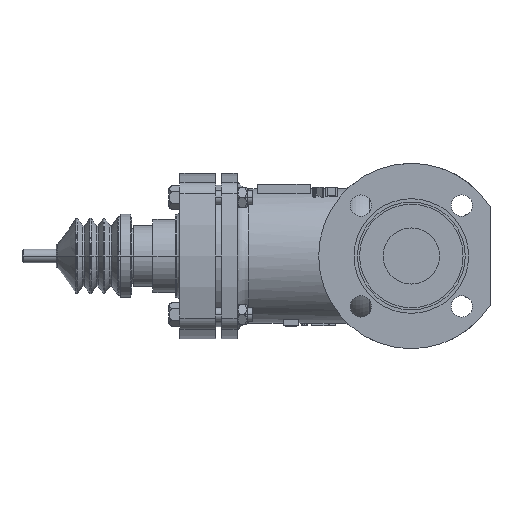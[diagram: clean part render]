
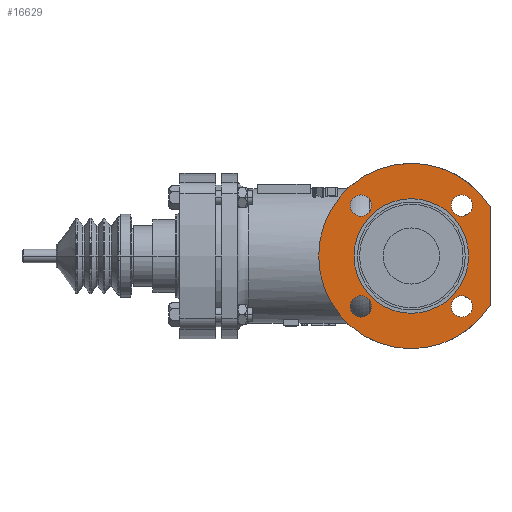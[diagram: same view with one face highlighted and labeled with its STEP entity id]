
A CAD part, left-side view. The second image highlights one B-rep face of the part: STEP entity #16629.
In plain terms, the highlighted planar face has unit normal (-1, 0, 0).
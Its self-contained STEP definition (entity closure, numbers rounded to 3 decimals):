
#4317=CARTESIAN_POINT('',(-109.,0.,0.));
#4318=DIRECTION('',(1.,0.,0.));
#4319=DIRECTION('',(0.,1.,0.));
#4320=AXIS2_PLACEMENT_3D('',#4317,#4318,#4319);
#4322=CARTESIAN_POINT('',(-109.,0.,0.));
#4323=DIRECTION('',(-1.,0.,0.));
#4324=DIRECTION('',(0.,1.,0.));
#4325=AXIS2_PLACEMENT_3D('',#4322,#4323,#4324);
#4327=DIRECTION('',(0.,0.,1.));
#4328=VECTOR('',#4327,87.321);
#4329=CARTESIAN_POINT('',(-109.,-70.,-43.661));
#4330=LINE('',#4329,#4328);
#4331=CARTESIAN_POINT('',(-109.,44.901,44.901));
#4332=DIRECTION('',(1.,0.,0.));
#4333=DIRECTION('',(0.,1.,0.));
#4334=AXIS2_PLACEMENT_3D('',#4331,#4332,#4333);
#4336=CARTESIAN_POINT('',(-109.,44.901,44.901));
#4337=DIRECTION('',(1.,0.,0.));
#4338=DIRECTION('',(0.,-1.,0.));
#4339=AXIS2_PLACEMENT_3D('',#4336,#4337,#4338);
#4341=CARTESIAN_POINT('',(-109.,44.901,-44.901));
#4342=DIRECTION('',(1.,0.,0.));
#4343=DIRECTION('',(0.,0.,-1.));
#4344=AXIS2_PLACEMENT_3D('',#4341,#4342,#4343);
#4346=CARTESIAN_POINT('',(-109.,44.901,-44.901));
#4347=DIRECTION('',(1.,0.,0.));
#4348=DIRECTION('',(0.,0.,1.));
#4349=AXIS2_PLACEMENT_3D('',#4346,#4347,#4348);
#4351=CARTESIAN_POINT('',(-109.,-44.901,-44.901));
#4352=DIRECTION('',(1.,0.,0.));
#4353=DIRECTION('',(0.,-1.,0.));
#4354=AXIS2_PLACEMENT_3D('',#4351,#4352,#4353);
#4356=CARTESIAN_POINT('',(-109.,-44.901,-44.901));
#4357=DIRECTION('',(1.,0.,0.));
#4358=DIRECTION('',(0.,1.,0.));
#4359=AXIS2_PLACEMENT_3D('',#4356,#4357,#4358);
#4361=CARTESIAN_POINT('',(-109.,-44.901,44.901));
#4362=DIRECTION('',(1.,0.,0.));
#4363=DIRECTION('',(0.,0.,1.));
#4364=AXIS2_PLACEMENT_3D('',#4361,#4362,#4363);
#4366=CARTESIAN_POINT('',(-109.,-44.901,44.901));
#4367=DIRECTION('',(1.,0.,0.));
#4368=DIRECTION('',(0.,0.,-1.));
#4369=AXIS2_PLACEMENT_3D('',#4366,#4367,#4368);
#4380=CARTESIAN_POINT('',(-109.,0.,0.));
#4381=DIRECTION('',(-1.,0.,0.));
#4382=DIRECTION('',(0.,-0.848,0.529));
#4383=AXIS2_PLACEMENT_3D('',#4380,#4381,#4382);
#9926=CARTESIAN_POINT('',(-109.,-70.,-43.661));
#9928=VERTEX_POINT('',#9926);
#9937=CARTESIAN_POINT('',(-109.,-70.,43.661));
#9938=VERTEX_POINT('',#9937);
#10007=CARTESIAN_POINT('',(-109.,54.401,44.901));
#10008=VERTEX_POINT('',#10007);
#10009=CARTESIAN_POINT('',(-109.,35.401,44.901));
#10010=VERTEX_POINT('',#10009);
#10015=CARTESIAN_POINT('',(-109.,44.901,-54.401));
#10016=VERTEX_POINT('',#10015);
#10017=CARTESIAN_POINT('',(-109.,44.901,-35.401));
#10018=VERTEX_POINT('',#10017);
#10023=CARTESIAN_POINT('',(-109.,-54.401,-44.901));
#10024=VERTEX_POINT('',#10023);
#10025=CARTESIAN_POINT('',(-109.,-35.401,-44.901));
#10026=VERTEX_POINT('',#10025);
#10031=CARTESIAN_POINT('',(-109.,-44.901,54.401));
#10032=VERTEX_POINT('',#10031);
#10033=CARTESIAN_POINT('',(-109.,-44.901,35.401));
#10034=VERTEX_POINT('',#10033);
#10630=CARTESIAN_POINT('',(-109.,51.,0.));
#10632=VERTEX_POINT('',#10630);
#10646=CARTESIAN_POINT('',(-109.,-51.,0.));
#10648=VERTEX_POINT('',#10646);
#16590=CARTESIAN_POINT('',(-109.,0.,0.));
#16591=DIRECTION('',(-1.,0.,0.));
#16592=DIRECTION('',(0.,-1.,0.));
#16593=AXIS2_PLACEMENT_3D('',#16590,#16591,#16592);
#16594=PLANE('',#16593);
#16596=ORIENTED_EDGE('',*,*,#16595,.F.);
#16598=ORIENTED_EDGE('',*,*,#16597,.F.);
#16599=EDGE_LOOP('',(#16596,#16598));
#16600=FACE_OUTER_BOUND('',#16599,.F.);
#16601=ORIENTED_EDGE('',*,*,#16583,.F.);
#16602=ORIENTED_EDGE('',*,*,#16572,.T.);
#16603=EDGE_LOOP('',(#16601,#16602));
#16604=FACE_BOUND('',#16603,.F.);
#16606=ORIENTED_EDGE('',*,*,#16605,.F.);
#16608=ORIENTED_EDGE('',*,*,#16607,.F.);
#16609=EDGE_LOOP('',(#16606,#16608));
#16610=FACE_BOUND('',#16609,.F.);
#16612=ORIENTED_EDGE('',*,*,#16611,.F.);
#16614=ORIENTED_EDGE('',*,*,#16613,.F.);
#16615=EDGE_LOOP('',(#16612,#16614));
#16616=FACE_BOUND('',#16615,.F.);
#16618=ORIENTED_EDGE('',*,*,#16617,.F.);
#16620=ORIENTED_EDGE('',*,*,#16619,.F.);
#16621=EDGE_LOOP('',(#16618,#16620));
#16622=FACE_BOUND('',#16621,.F.);
#16624=ORIENTED_EDGE('',*,*,#16623,.F.);
#16626=ORIENTED_EDGE('',*,*,#16625,.F.);
#16627=EDGE_LOOP('',(#16624,#16626));
#16628=FACE_BOUND('',#16627,.F.);
#16629=ADVANCED_FACE('',(#16600,#16604,#16610,#16616,#16622,#16628),#16594,.T.);
#4321=CIRCLE('',#4320,51.);
#4326=CIRCLE('',#4325,51.);
#4335=CIRCLE('',#4334,9.5);
#4340=CIRCLE('',#4339,9.5);
#4345=CIRCLE('',#4344,9.5);
#4350=CIRCLE('',#4349,9.5);
#4355=CIRCLE('',#4354,9.5);
#4360=CIRCLE('',#4359,9.5);
#4365=CIRCLE('',#4364,9.5);
#4370=CIRCLE('',#4369,9.5);
#4384=CIRCLE('',#4383,82.5);
#16572=EDGE_CURVE('',#10632,#10648,#4326,.T.);
#16583=EDGE_CURVE('',#10632,#10648,#4321,.T.);
#16595=EDGE_CURVE('',#9928,#9938,#4330,.T.);
#16597=EDGE_CURVE('',#9938,#9928,#4384,.T.);
#16605=EDGE_CURVE('',#10008,#10010,#4335,.T.);
#16607=EDGE_CURVE('',#10010,#10008,#4340,.T.);
#16611=EDGE_CURVE('',#10016,#10018,#4345,.T.);
#16613=EDGE_CURVE('',#10018,#10016,#4350,.T.);
#16617=EDGE_CURVE('',#10024,#10026,#4355,.T.);
#16619=EDGE_CURVE('',#10026,#10024,#4360,.T.);
#16623=EDGE_CURVE('',#10032,#10034,#4365,.T.);
#16625=EDGE_CURVE('',#10034,#10032,#4370,.T.);
